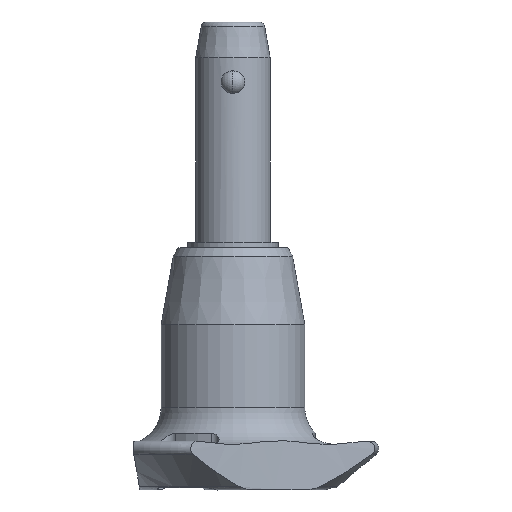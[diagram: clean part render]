
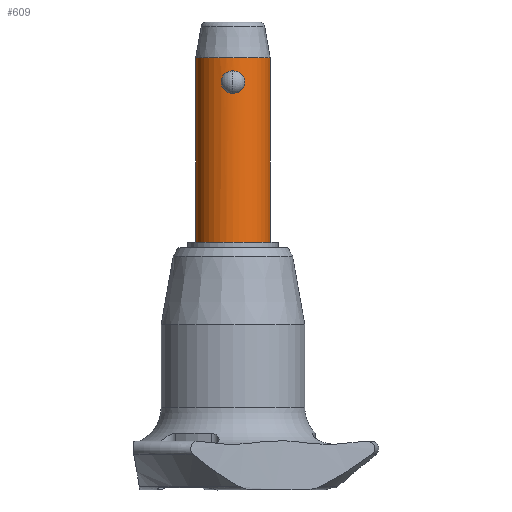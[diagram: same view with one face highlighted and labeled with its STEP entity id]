
A CAD part, front view. The second image highlights one B-rep face of the part: STEP entity #609.
In plain terms, the highlighted cylindrical face has radius 5 mm (diameter 10 mm), a partial arc.
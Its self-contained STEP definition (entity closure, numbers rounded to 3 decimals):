
#5 = CARTESIAN_POINT ( 'NONE',  ( -1.56, -4.751, 1.931 ) ) ;
#83 = CARTESIAN_POINT ( 'NONE',  ( 5., 0., -20. ) ) ;
#125 = CARTESIAN_POINT ( 'NONE',  ( 0.699, -4.952, 0.144 ) ) ;
#153 = CARTESIAN_POINT ( 'NONE',  ( 0., -5., 3.033 ) ) ;
#158 = CARTESIAN_POINT ( 'NONE',  ( -0.791, -4.938, 2.844 ) ) ;
#169 = CARTESIAN_POINT ( 'NONE',  ( 1.594, -4.739, 1.721 ) ) ;
#197 = VECTOR ( 'NONE', #1534, 1000. ) ;
#279 = EDGE_CURVE ( 'NONE', #1311, #387, #1398, .T. ) ;
#299 = CARTESIAN_POINT ( 'NONE',  ( 0., 0., -20. ) ) ;
#324 = VERTEX_POINT ( 'NONE', #2164 ) ;
#336 = LINE ( 'NONE', #1151, #1782 ) ;
#342 = CARTESIAN_POINT ( 'NONE',  ( 1.384, -4.805, 0.735 ) ) ;
#387 = VERTEX_POINT ( 'NONE', #1113 ) ;
#397 = B_SPLINE_CURVE_WITH_KNOTS ( 'NONE', 3,
 ( #740, #2241, #2626, #125, #967, #1392, #2676, #754, #2253, #342, #2415, #495, #1990, #2058, #169, #2265, #2074, #2706, #784, #1843, #1633, #770, #2499, #575, #1620, #153 ),
 .UNSPECIFIED., .F., .F.,
 ( 4, 2, 2, 2, 2, 2, 2, 2, 2, 2, 2, 2, 4 ),
 ( 0.005, 0.006, 0.006, 0.006, 0.006, 0.007, 0.007, 0.008, 0.008, 0.009, 0.009, 0.009, 0.01 ),
 .UNSPECIFIED. ) ;
#404 = CARTESIAN_POINT ( 'NONE',  ( -1.604, -4.736, 1.724 ) ) ;
#421 = CARTESIAN_POINT ( 'NONE',  ( -0.966, -4.907, 0.296 ) ) ;
#495 = CARTESIAN_POINT ( 'NONE',  ( 1.56, -4.751, 1.103 ) ) ;
#499 = EDGE_LOOP ( 'NONE', ( #716, #745, #960, #1055 ) ) ;
#529 = EDGE_CURVE ( 'NONE', #387, #1311, #397, .T. ) ;
#563 = CARTESIAN_POINT ( 'NONE',  ( 0., 0., -20. ) ) ;
#575 = CARTESIAN_POINT ( 'NONE',  ( 0.412, -4.987, 2.996 ) ) ;
#579 = CARTESIAN_POINT ( 'NONE',  ( -1.047, -4.89, 2.676 ) ) ;
#607 = CARTESIAN_POINT ( 'NONE',  ( -1.197, -4.855, 2.539 ) ) ;
#609 = ADVANCED_FACE ( 'NONE', ( #981, #2690 ), #2486, .T. ) ;
#620 = CARTESIAN_POINT ( 'NONE',  ( -0.208, -5., 3.033 ) ) ;
#657 = CARTESIAN_POINT ( 'NONE',  ( 5., 0., -20. ) ) ;
#691 = CARTESIAN_POINT ( 'NONE',  ( -5., 0., 4.8 ) ) ;
#708 = AXIS2_PLACEMENT_3D ( 'NONE', #563, #1404, #2028 ) ;
#716 = ORIENTED_EDGE ( 'NONE', *, *, #1232, .F. ) ;
#723 = DIRECTION ( 'NONE',  ( 0., 0., -1. ) ) ;
#738 = EDGE_LOOP ( 'NONE', ( #2681, #1325 ) ) ;
#740 = CARTESIAN_POINT ( 'NONE',  ( 0., -5., 0. ) ) ;
#745 = ORIENTED_EDGE ( 'NONE', *, *, #1631, .F. ) ;
#747 = CARTESIAN_POINT ( 'NONE',  ( -5., 0., -20. ) ) ;
#754 = CARTESIAN_POINT ( 'NONE',  ( 1.196, -4.855, 0.493 ) ) ;
#770 = CARTESIAN_POINT ( 'NONE',  ( 0.792, -4.938, 2.844 ) ) ;
#784 = CARTESIAN_POINT ( 'NONE',  ( 1.272, -4.838, 2.47 ) ) ;
#815 = AXIS2_PLACEMENT_3D ( 'NONE', #2458, #2022, #1129 ) ;
#823 = VERTEX_POINT ( 'NONE', #691 ) ;
#834 = CARTESIAN_POINT ( 'NONE',  ( -0.965, -4.907, 2.738 ) ) ;
#960 = ORIENTED_EDGE ( 'NONE', *, *, #1154, .T. ) ;
#967 = CARTESIAN_POINT ( 'NONE',  ( 0.792, -4.938, 0.19 ) ) ;
#981 = FACE_OUTER_BOUND ( 'NONE', #499, .T. ) ;
#999 = CARTESIAN_POINT ( 'NONE',  ( -1.383, -4.805, 2.299 ) ) ;
#1045 = CARTESIAN_POINT ( 'NONE',  ( -0.412, -4.987, 2.997 ) ) ;
#1055 = ORIENTED_EDGE ( 'NONE', *, *, #2008, .T. ) ;
#1085 = CIRCLE ( 'NONE', #815, 5. ) ;
#1113 = CARTESIAN_POINT ( 'NONE',  ( 0., -5., 0. ) ) ;
#1129 = DIRECTION ( 'NONE',  ( 1., 0., 0. ) ) ;
#1151 = CARTESIAN_POINT ( 'NONE',  ( -5., 0., -20. ) ) ;
#1154 = EDGE_CURVE ( 'NONE', #1637, #324, #1917, .T. ) ;
#1174 = DIRECTION ( 'NONE',  ( 1., 0., 0. ) ) ;
#1205 = CARTESIAN_POINT ( 'NONE',  ( -1.551, -4.753, 1.11 ) ) ;
#1227 = VERTEX_POINT ( 'NONE', #747 ) ;
#1232 = EDGE_CURVE ( 'NONE', #1227, #823, #336, .T. ) ;
#1266 = CARTESIAN_POINT ( 'NONE',  ( -0.699, -4.952, 0.145 ) ) ;
#1302 = CIRCLE ( 'NONE', #2016, 5. ) ;
#1311 = VERTEX_POINT ( 'NONE', #2039 ) ;
#1325 = ORIENTED_EDGE ( 'NONE', *, *, #529, .F. ) ;
#1392 = CARTESIAN_POINT ( 'NONE',  ( 0.966, -4.907, 0.296 ) ) ;
#1398 = B_SPLINE_CURVE_WITH_KNOTS ( 'NONE', 3,
 ( #1441, #620, #1045, #1877, #158, #834, #579, #607, #2488, #999, #2314, #5, #404, #1895, #2754, #1205, #1425, #1678, #2547, #1470, #421, #2062, #1266, #2120, #2185, #2599 ),
 .UNSPECIFIED., .F., .F.,
 ( 4, 2, 2, 2, 2, 2, 2, 2, 2, 2, 2, 2, 4 ),
 ( 0., 0.001, 0.001, 0.001, 0.002, 0.002, 0.002, 0.003, 0.003, 0.004, 0.004, 0.004, 0.005 ),
 .UNSPECIFIED. ) ;
#1404 = DIRECTION ( 'NONE',  ( 0., 0., 1. ) ) ;
#1425 = CARTESIAN_POINT ( 'NONE',  ( -1.519, -4.764, 1.013 ) ) ;
#1441 = CARTESIAN_POINT ( 'NONE',  ( 0., -5., 3.033 ) ) ;
#1470 = CARTESIAN_POINT ( 'NONE',  ( -1.047, -4.89, 0.357 ) ) ;
#1534 = DIRECTION ( 'NONE',  ( 0., 0., 1. ) ) ;
#1620 = CARTESIAN_POINT ( 'NONE',  ( 0.208, -5., 3.033 ) ) ;
#1631 = EDGE_CURVE ( 'NONE', #1637, #1227, #1302, .T. ) ;
#1633 = CARTESIAN_POINT ( 'NONE',  ( 0.966, -4.907, 2.738 ) ) ;
#1637 = VERTEX_POINT ( 'NONE', #83 ) ;
#1678 = CARTESIAN_POINT ( 'NONE',  ( -1.394, -4.802, 0.731 ) ) ;
#1782 = VECTOR ( 'NONE', #2620, 1000. ) ;
#1843 = CARTESIAN_POINT ( 'NONE',  ( 1.048, -4.889, 2.676 ) ) ;
#1877 = CARTESIAN_POINT ( 'NONE',  ( -0.7, -4.952, 2.888 ) ) ;
#1895 = CARTESIAN_POINT ( 'NONE',  ( -1.604, -4.736, 1.416 ) ) ;
#1917 = LINE ( 'NONE', #657, #197 ) ;
#1990 = CARTESIAN_POINT ( 'NONE',  ( 1.604, -4.736, 1.308 ) ) ;
#2008 = EDGE_CURVE ( 'NONE', #324, #823, #1085, .T. ) ;
#2016 = AXIS2_PLACEMENT_3D ( 'NONE', #299, #723, #1174 ) ;
#2022 = DIRECTION ( 'NONE',  ( 0., 0., -1. ) ) ;
#2028 = DIRECTION ( 'NONE',  ( 1., 0., 0. ) ) ;
#2039 = CARTESIAN_POINT ( 'NONE',  ( 0., -5., 3.033 ) ) ;
#2058 = CARTESIAN_POINT ( 'NONE',  ( 1.604, -4.736, 1.619 ) ) ;
#2062 = CARTESIAN_POINT ( 'NONE',  ( -0.792, -4.938, 0.19 ) ) ;
#2074 = CARTESIAN_POINT ( 'NONE',  ( 1.519, -4.764, 2.021 ) ) ;
#2120 = CARTESIAN_POINT ( 'NONE',  ( -0.412, -4.987, 0.037 ) ) ;
#2164 = CARTESIAN_POINT ( 'NONE',  ( 5., 0., 4.8 ) ) ;
#2185 = CARTESIAN_POINT ( 'NONE',  ( -0.205, -5., 0. ) ) ;
#2241 = CARTESIAN_POINT ( 'NONE',  ( 0.205, -5., 0. ) ) ;
#2253 = CARTESIAN_POINT ( 'NONE',  ( 1.265, -4.838, 0.57 ) ) ;
#2265 = CARTESIAN_POINT ( 'NONE',  ( 1.551, -4.753, 1.922 ) ) ;
#2314 = CARTESIAN_POINT ( 'NONE',  ( -1.435, -4.79, 2.209 ) ) ;
#2415 = CARTESIAN_POINT ( 'NONE',  ( 1.434, -4.79, 0.822 ) ) ;
#2458 = CARTESIAN_POINT ( 'NONE',  ( 0., 0., 4.8 ) ) ;
#2486 = CYLINDRICAL_SURFACE ( 'NONE', #708, 5. ) ;
#2488 = CARTESIAN_POINT ( 'NONE',  ( -1.264, -4.838, 2.464 ) ) ;
#2499 = CARTESIAN_POINT ( 'NONE',  ( 0.7, -4.952, 2.888 ) ) ;
#2547 = CARTESIAN_POINT ( 'NONE',  ( -1.272, -4.838, 0.564 ) ) ;
#2599 = CARTESIAN_POINT ( 'NONE',  ( 0., -5., 0. ) ) ;
#2620 = DIRECTION ( 'NONE',  ( 0., 0., 1. ) ) ;
#2626 = CARTESIAN_POINT ( 'NONE',  ( 0.412, -4.987, 0.037 ) ) ;
#2676 = CARTESIAN_POINT ( 'NONE',  ( 1.047, -4.89, 0.356 ) ) ;
#2681 = ORIENTED_EDGE ( 'NONE', *, *, #279, .F. ) ;
#2690 = FACE_BOUND ( 'NONE', #738, .T. ) ;
#2706 = CARTESIAN_POINT ( 'NONE',  ( 1.395, -4.802, 2.301 ) ) ;
#2754 = CARTESIAN_POINT ( 'NONE',  ( -1.594, -4.739, 1.312 ) ) ;
